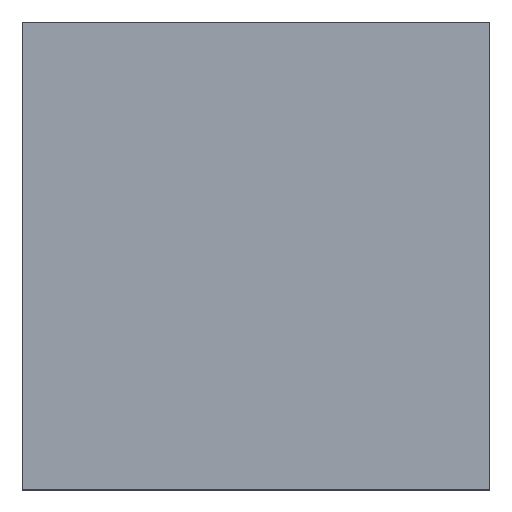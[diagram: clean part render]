
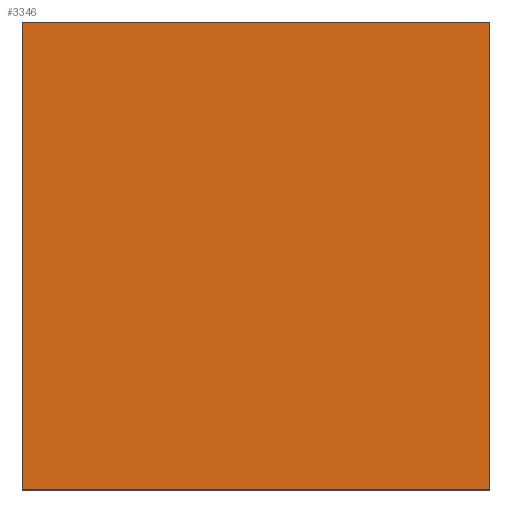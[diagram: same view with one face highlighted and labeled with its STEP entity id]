
A CAD part, top view. The second image highlights one B-rep face of the part: STEP entity #3346.
In plain terms, the highlighted planar face has unit normal (0, 0, 1).
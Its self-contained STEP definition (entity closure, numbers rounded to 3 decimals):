
#961 = LINE ( 'NONE', #3692, #7223 ) ;
#969 = DIRECTION ( 'NONE',  ( 1., 0., 0. ) ) ;
#1193 = DIRECTION ( 'NONE',  ( 0., -1., 0. ) ) ;
#1252 = VECTOR ( 'NONE', #7030, 1000. ) ;
#1588 = DIRECTION ( 'NONE',  ( 0., 0., 1. ) ) ;
#2383 = FACE_OUTER_BOUND ( 'NONE', #8359, .T. ) ;
#2664 = CARTESIAN_POINT ( 'NONE',  ( 10., -10., 0.9 ) ) ;
#2760 = LINE ( 'NONE', #6203, #1252 ) ;
#2847 = CARTESIAN_POINT ( 'NONE',  ( -10., -10., 0.9 ) ) ;
#2946 = ORIENTED_EDGE ( 'NONE', *, *, #4704, .T. ) ;
#3204 = PLANE ( 'NONE',  #5809 ) ;
#3346 = ADVANCED_FACE ( 'NONE', ( #2383 ), #3204, .T. ) ;
#3692 = CARTESIAN_POINT ( 'NONE',  ( 10., 10., 0.9 ) ) ;
#3767 = CARTESIAN_POINT ( 'NONE',  ( 0., 0., 0.9 ) ) ;
#3897 = VECTOR ( 'NONE', #1193, 1000. ) ;
#4704 = EDGE_CURVE ( 'NONE', #6693, #6455, #961, .T. ) ;
#4759 = LINE ( 'NONE', #8413, #3897 ) ;
#4783 = EDGE_CURVE ( 'NONE', #5762, #6411, #4759, .T. ) ;
#4818 = ORIENTED_EDGE ( 'NONE', *, *, #4783, .T. ) ;
#5250 = LINE ( 'NONE', #7228, #6614 ) ;
#5313 = CARTESIAN_POINT ( 'NONE',  ( -10., 10., 0.9 ) ) ;
#5745 = DIRECTION ( 'NONE',  ( 0., 1., 0. ) ) ;
#5762 = VERTEX_POINT ( 'NONE', #5313 ) ;
#5809 = AXIS2_PLACEMENT_3D ( 'NONE', #3767, #1588, #6650 ) ;
#5820 = ORIENTED_EDGE ( 'NONE', *, *, #7329, .T. ) ;
#6142 = EDGE_CURVE ( 'NONE', #6455, #5762, #2760, .T. ) ;
#6203 = CARTESIAN_POINT ( 'NONE',  ( -10., 10., 0.9 ) ) ;
#6411 = VERTEX_POINT ( 'NONE', #2847 ) ;
#6455 = VERTEX_POINT ( 'NONE', #8742 ) ;
#6614 = VECTOR ( 'NONE', #969, 1000. ) ;
#6650 = DIRECTION ( 'NONE',  ( 1., 0., 0. ) ) ;
#6693 = VERTEX_POINT ( 'NONE', #2664 ) ;
#6925 = ORIENTED_EDGE ( 'NONE', *, *, #6142, .T. ) ;
#7030 = DIRECTION ( 'NONE',  ( -1., 0., 0. ) ) ;
#7223 = VECTOR ( 'NONE', #5745, 1000. ) ;
#7228 = CARTESIAN_POINT ( 'NONE',  ( -10., -10., 0.9 ) ) ;
#7329 = EDGE_CURVE ( 'NONE', #6411, #6693, #5250, .T. ) ;
#8359 = EDGE_LOOP ( 'NONE', ( #2946, #6925, #4818, #5820 ) ) ;
#8413 = CARTESIAN_POINT ( 'NONE',  ( -10., 10., 0.9 ) ) ;
#8742 = CARTESIAN_POINT ( 'NONE',  ( 10., 10., 0.9 ) ) ;
